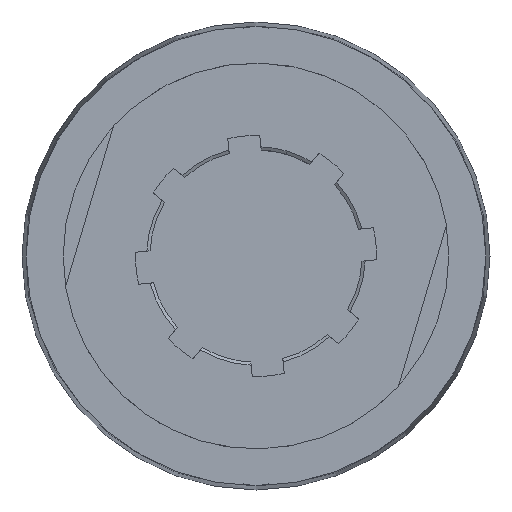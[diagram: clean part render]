
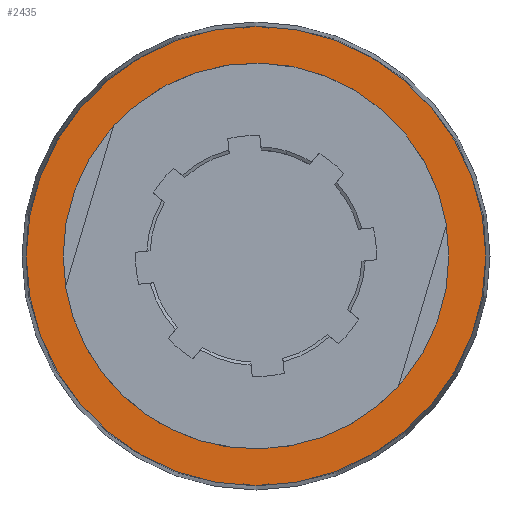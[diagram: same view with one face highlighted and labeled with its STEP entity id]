
A CAD part, front view. The second image highlights one B-rep face of the part: STEP entity #2435.
In plain terms, the highlighted planar face has unit normal (0, -1, 0).
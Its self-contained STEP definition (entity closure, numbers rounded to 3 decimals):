
#108 = EDGE_CURVE ( 'NONE', #3068, #1570, #1757, .T. ) ;
#265 = DIRECTION ( 'NONE',  ( 0., 0., -1. ) ) ;
#289 = DIRECTION ( 'NONE',  ( 0., 0., -1. ) ) ;
#368 = AXIS2_PLACEMENT_3D ( 'NONE', #1744, #1752, #1489 ) ;
#384 = CIRCLE ( 'NONE', #368, 7.15 ) ;
#489 = EDGE_LOOP ( 'NONE', ( #1083, #1807 ) ) ;
#619 = CARTESIAN_POINT ( 'NONE',  ( 13.385, -6.822, 13.342 ) ) ;
#867 = DIRECTION ( 'NONE',  ( 0., 0., -1. ) ) ;
#880 = DIRECTION ( 'NONE',  ( 0., -1., 0. ) ) ;
#964 = FACE_BOUND ( 'NONE', #489, .T. ) ;
#1083 = ORIENTED_EDGE ( 'NONE', *, *, #2111, .F. ) ;
#1106 = AXIS2_PLACEMENT_3D ( 'NONE', #1559, #2550, #289 ) ;
#1219 = DIRECTION ( 'NONE',  ( 0., -1., 0. ) ) ;
#1226 = ORIENTED_EDGE ( 'NONE', *, *, #3035, .T. ) ;
#1250 = CARTESIAN_POINT ( 'NONE',  ( 13.385, -6.822, 6.192 ) ) ;
#1294 = CARTESIAN_POINT ( 'NONE',  ( 20.535, -6.822, 6.192 ) ) ;
#1347 = EDGE_LOOP ( 'NONE', ( #1226, #2712 ) ) ;
#1392 = CARTESIAN_POINT ( 'NONE',  ( 13.385, -6.822, 6.192 ) ) ;
#1489 = DIRECTION ( 'NONE',  ( 0., 0., -1. ) ) ;
#1559 = CARTESIAN_POINT ( 'NONE',  ( 13.385, -6.822, 6.192 ) ) ;
#1570 = VERTEX_POINT ( 'NONE', #2713 ) ;
#1609 = DIRECTION ( 'NONE',  ( 0., 0., -1. ) ) ;
#1744 = CARTESIAN_POINT ( 'NONE',  ( 13.385, -6.822, 6.192 ) ) ;
#1752 = DIRECTION ( 'NONE',  ( 0., -1., 0. ) ) ;
#1757 = CIRCLE ( 'NONE', #1106, 6. ) ;
#1807 = ORIENTED_EDGE ( 'NONE', *, *, #108, .F. ) ;
#2006 = PLANE ( 'NONE',  #2514 ) ;
#2007 = CIRCLE ( 'NONE', #3075, 7.15 ) ;
#2019 = CARTESIAN_POINT ( 'NONE',  ( 13.385, -6.822, -0.958 ) ) ;
#2106 = EDGE_CURVE ( 'NONE', #2205, #3116, #384, .T. ) ;
#2111 = EDGE_CURVE ( 'NONE', #1570, #3068, #2710, .T. ) ;
#2152 = DIRECTION ( 'NONE',  ( 0., -1., 0. ) ) ;
#2205 = VERTEX_POINT ( 'NONE', #2019 ) ;
#2435 = ADVANCED_FACE ( 'NONE', ( #2940, #964 ), #2006, .T. ) ;
#2469 = AXIS2_PLACEMENT_3D ( 'NONE', #1250, #1219, #265 ) ;
#2514 = AXIS2_PLACEMENT_3D ( 'NONE', #1294, #880, #867 ) ;
#2550 = DIRECTION ( 'NONE',  ( 0., -1., 0. ) ) ;
#2710 = CIRCLE ( 'NONE', #2469, 6. ) ;
#2712 = ORIENTED_EDGE ( 'NONE', *, *, #2106, .T. ) ;
#2713 = CARTESIAN_POINT ( 'NONE',  ( 13.385, -6.822, 0.192 ) ) ;
#2940 = FACE_OUTER_BOUND ( 'NONE', #1347, .T. ) ;
#3035 = EDGE_CURVE ( 'NONE', #3116, #2205, #2007, .T. ) ;
#3068 = VERTEX_POINT ( 'NONE', #3089 ) ;
#3075 = AXIS2_PLACEMENT_3D ( 'NONE', #1392, #2152, #1609 ) ;
#3089 = CARTESIAN_POINT ( 'NONE',  ( 13.385, -6.822, 12.192 ) ) ;
#3116 = VERTEX_POINT ( 'NONE', #619 ) ;
